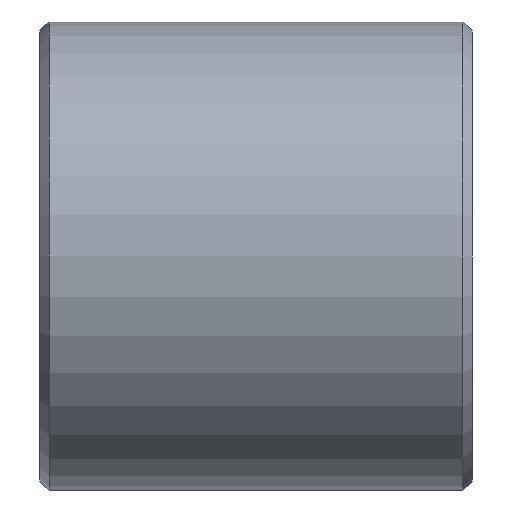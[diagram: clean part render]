
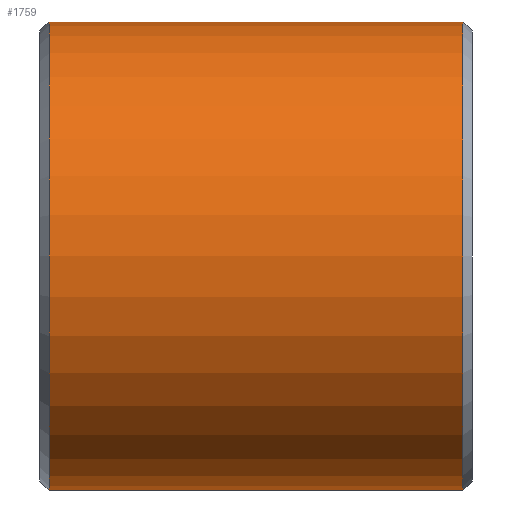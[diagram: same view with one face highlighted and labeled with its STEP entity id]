
A CAD part, front view. The second image highlights one B-rep face of the part: STEP entity #1759.
In plain terms, the highlighted cylindrical face has radius 13 mm (diameter 26 mm), a partial arc.
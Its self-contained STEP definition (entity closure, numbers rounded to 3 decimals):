
#86=DIRECTION('',(1.,0.,0.));
#87=VECTOR('',#86,23.);
#88=CARTESIAN_POINT('',(-11.5,0.,-13.));
#89=LINE('',#88,#87);
#133=CARTESIAN_POINT('',(11.5,0.,0.));
#134=DIRECTION('',(1.,0.,0.));
#135=DIRECTION('',(0.,0.,1.));
#136=AXIS2_PLACEMENT_3D('',#133,#134,#135);
#138=CARTESIAN_POINT('',(-11.5,0.,0.));
#139=DIRECTION('',(-1.,0.,0.));
#140=DIRECTION('',(0.,0.,-1.));
#141=AXIS2_PLACEMENT_3D('',#138,#139,#140);
#143=DIRECTION('',(1.,0.,0.));
#144=VECTOR('',#143,23.);
#145=CARTESIAN_POINT('',(-11.5,0.,
13.));
#146=LINE('',#145,#144);
#1618=CARTESIAN_POINT('',(11.5,0.,13.));
#1619=CARTESIAN_POINT('',(11.5,0.,-13.));
#1620=VERTEX_POINT('',#1618);
#1621=VERTEX_POINT('',#1619);
#1626=CARTESIAN_POINT('',(-11.5,0.,-13.));
#1627=CARTESIAN_POINT('',(-11.5,0.,13.));
#1628=VERTEX_POINT('',#1626);
#1629=VERTEX_POINT('',#1627);
#1748=CARTESIAN_POINT('',(-12.,0.,0.));
#1749=DIRECTION('',(1.,0.,0.));
#1750=DIRECTION('',(0.,0.,-1.));
#1751=AXIS2_PLACEMENT_3D('',#1748,#1749,#1750);
#1752=CYLINDRICAL_SURFACE('',#1751,13.);
#1753=ORIENTED_EDGE('',*,*,#1742,.T.);
#1754=ORIENTED_EDGE('',*,*,#1692,.F.);
#1755=ORIENTED_EDGE('',*,*,#1662,.T.);
#1756=ORIENTED_EDGE('',*,*,#1689,.T.);
#1757=EDGE_LOOP('',(#1753,#1754,#1755,#1756));
#1758=FACE_OUTER_BOUND('',#1757,.F.);
#1759=ADVANCED_FACE('',(#1758),#1752,.T.);
#137=CIRCLE('',#136,13.);
#142=CIRCLE('',#141,13.);
#1662=EDGE_CURVE('',#1628,#1629,#142,.T.);
#1689=EDGE_CURVE('',#1629,#1620,#146,.T.);
#1692=EDGE_CURVE('',#1628,#1621,#89,.T.);
#1742=EDGE_CURVE('',#1620,#1621,#137,.T.);
